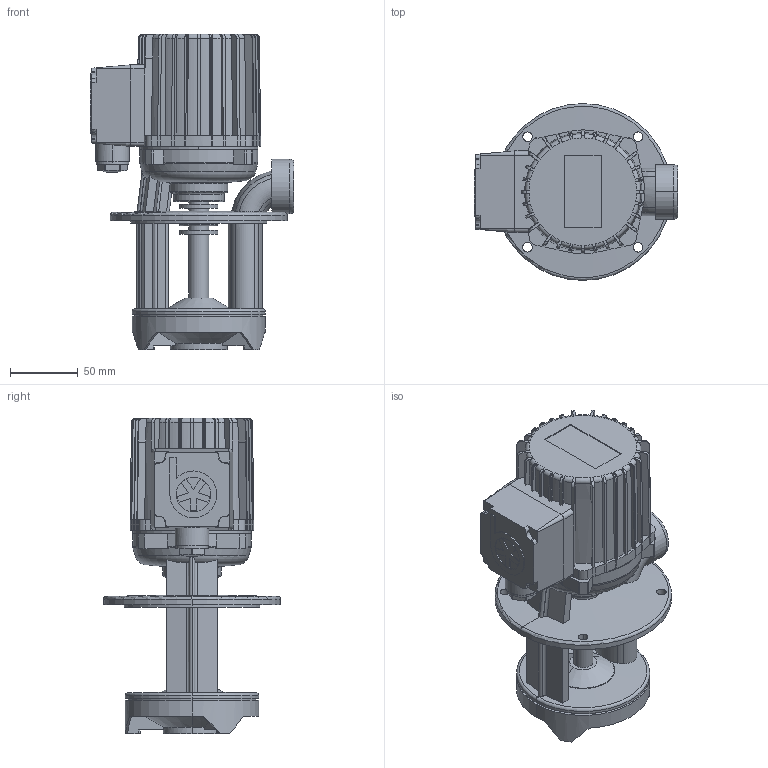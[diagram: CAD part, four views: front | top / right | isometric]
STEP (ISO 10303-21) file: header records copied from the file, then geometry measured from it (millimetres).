
FILE_DESCRIPTION(('no description'),'unknown implementation level');
FILE_NAME('TB40_90_22.stp',' ',('K. H. Brinkmann GmbH & Co. KG'),('CADClick - KiM GmbH - www.kimweb.de'),'unknown preprocess','ACIS','unknown authorization');
FILE_SCHEMA(('automotive_design'));
Length unit declared in the file: millimetre
Products named in the file (3): 1; 2; 3
Bounding box: 150 x 130 x 232 mm (x, y, z)
Volume: 1199118.1 mm3; surface area: 173719.6 mm2
Topology: 3 solids, 3 shells, 602 faces, 1605 edges, 1027 vertices
Faces by surface type: plane 287, cylinder 153, torus 87, cone 75
Entity records: 41009 total; most frequent: CARTESIAN_POINT 8203, STYLED_ITEM 3237, PRESENTATION_STYLE_ASSIGNMENT 3237, COLOUR_RGB 3237, ORIENTED_EDGE 3210, DIRECTION 3052, EDGE_CURVE 1605, CURVE_STYLE 1605
